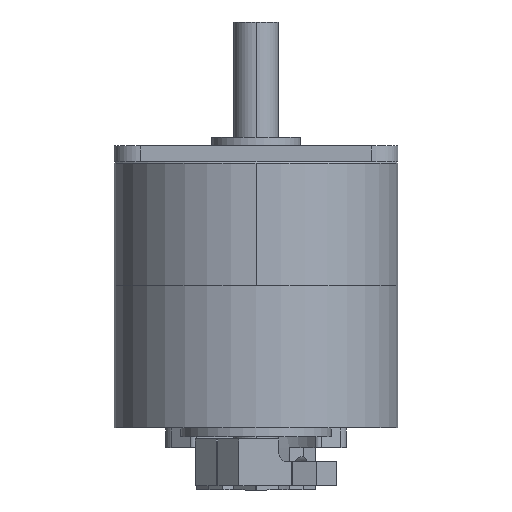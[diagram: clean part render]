
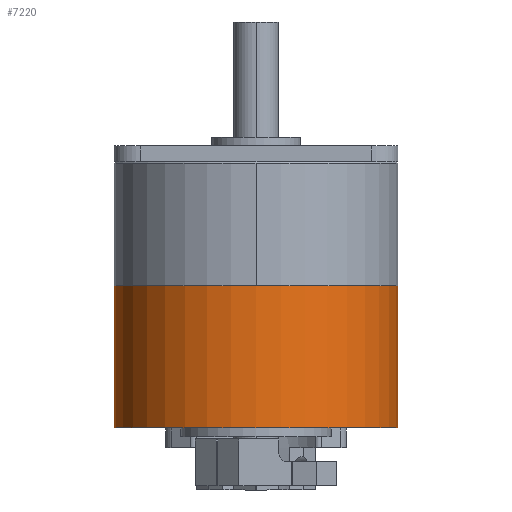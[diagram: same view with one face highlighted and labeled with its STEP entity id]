
A CAD part, front view. The second image highlights one B-rep face of the part: STEP entity #7220.
In plain terms, the highlighted cylindrical face has radius 32 mm (diameter 64 mm), a partial arc.
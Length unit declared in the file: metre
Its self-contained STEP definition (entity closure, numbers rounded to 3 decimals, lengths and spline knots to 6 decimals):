
#368 = ORIENTED_EDGE ( 'NONE', *, *, #2705, .T. ) ;
#713 = CARTESIAN_POINT ( 'NONE',  ( 0.032, 0., -0.032 ) ) ;
#1366 = EDGE_LOOP ( 'NONE', ( #6504, #3180, #368, #2918 ) ) ;
#1685 = CYLINDRICAL_SURFACE ( 'NONE', #2029, 0.032 ) ;
#2029 = AXIS2_PLACEMENT_3D ( 'NONE', #8012, #7809, #8052 ) ;
#2658 = CARTESIAN_POINT ( 'NONE',  ( 0., 0., 0. ) ) ;
#2705 = EDGE_CURVE ( 'NONE', #8877, #11259, #5402, .T. ) ;
#2707 = LINE ( 'NONE', #15412, #5859 ) ;
#2805 = CARTESIAN_POINT ( 'NONE',  ( 0., 0., -0.032 ) ) ;
#2918 = ORIENTED_EDGE ( 'NONE', *, *, #11769, .F. ) ;
#3180 = ORIENTED_EDGE ( 'NONE', *, *, #14625, .F. ) ;
#4017 = DIRECTION ( 'NONE',  ( 1., 0., 0. ) ) ;
#4117 = CIRCLE ( 'NONE', #6319, 0.032 ) ;
#4147 = DIRECTION ( 'NONE',  ( 1., 0., 0. ) ) ;
#4792 = DIRECTION ( 'NONE',  ( 0., 0., 1. ) ) ;
#5400 = VERTEX_POINT ( 'NONE', #9607 ) ;
#5402 = LINE ( 'NONE', #13147, #6962 ) ;
#5859 = VECTOR ( 'NONE', #8279, 1. ) ;
#6235 = CARTESIAN_POINT ( 'NONE',  ( -0.032, 0., -0.032 ) ) ;
#6319 = AXIS2_PLACEMENT_3D ( 'NONE', #2805, #12117, #4147 ) ;
#6504 = ORIENTED_EDGE ( 'NONE', *, *, #11863, .F. ) ;
#6734 = CIRCLE ( 'NONE', #12365, 0.032 ) ;
#6962 = VECTOR ( 'NONE', #4792, 1. ) ;
#7220 = ADVANCED_FACE ( 'NONE', ( #11028 ), #1685, .T. ) ;
#7809 = DIRECTION ( 'NONE',  ( 0., 0., 1. ) ) ;
#7998 = CARTESIAN_POINT ( 'NONE',  ( 0.032, 0., 0. ) ) ;
#8012 = CARTESIAN_POINT ( 'NONE',  ( 0., 0., -0.032 ) ) ;
#8052 = DIRECTION ( 'NONE',  ( 1., 0., 0. ) ) ;
#8279 = DIRECTION ( 'NONE',  ( 0., 0., 1. ) ) ;
#8461 = VERTEX_POINT ( 'NONE', #6235 ) ;
#8877 = VERTEX_POINT ( 'NONE', #713 ) ;
#9607 = CARTESIAN_POINT ( 'NONE',  ( -0.032, 0., 0. ) ) ;
#11028 = FACE_OUTER_BOUND ( 'NONE', #1366, .T. ) ;
#11259 = VERTEX_POINT ( 'NONE', #7998 ) ;
#11769 = EDGE_CURVE ( 'NONE', #5400, #11259, #6734, .T. ) ;
#11863 = EDGE_CURVE ( 'NONE', #8461, #5400, #2707, .T. ) ;
#12004 = DIRECTION ( 'NONE',  ( 0., 0., 1. ) ) ;
#12117 = DIRECTION ( 'NONE',  ( 0., 0., -1. ) ) ;
#12365 = AXIS2_PLACEMENT_3D ( 'NONE', #2658, #12004, #4017 ) ;
#13147 = CARTESIAN_POINT ( 'NONE',  ( 0.032, 0., -0.032 ) ) ;
#14625 = EDGE_CURVE ( 'NONE', #8877, #8461, #4117, .T. ) ;
#15412 = CARTESIAN_POINT ( 'NONE',  ( -0.032, 0., -0.032 ) ) ;
